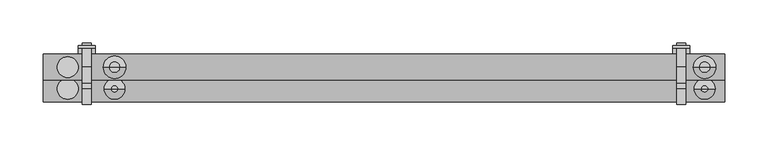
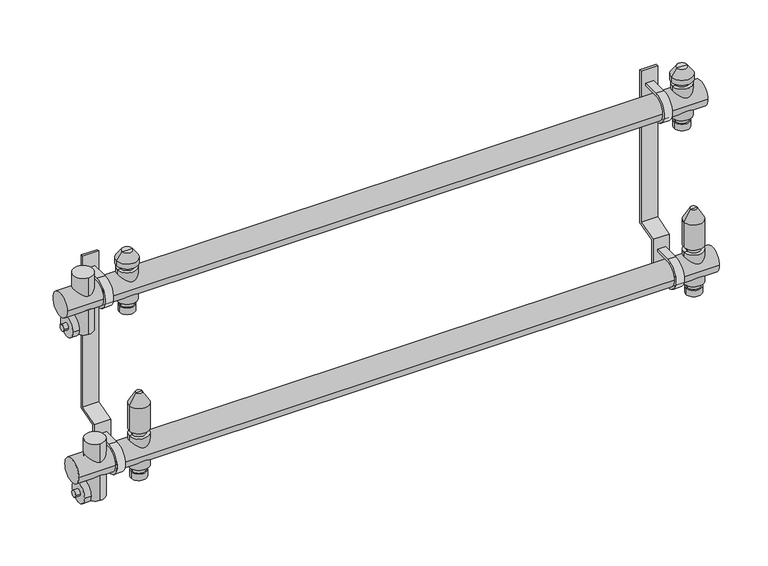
"""IFC4 building model written with IfcOpenShell, lengths in millimetres: valve geometry, PL AT_Manifold_FT-EV : 14 circuits."""

from ifc_helpers import new_model, si_unit, point, frame, frame_2d, origin, origin_2d, place, context, project, spatial, polyline, circle_curve, trimmed, segment, composite_curve, outline, extrude, source, transform, mapped, element, save
from ifc_brep_helpers import plane_surface, cylinder_surface, revolved_surface, advanced_brep


def valve_ecf45875(model_context):
    return source(origin(), model_context, "Body", "SolidModel", [
        advanced_brep(
        [(712.5, 0.0, -35.11267), (731.5, 0.0, -35.11267), (722.0, 0.0, -35.11267), (712.5, 0.0, -27.0369646), (731.5, 0.0, -27.0369646), (714.0, 0.0, -27.0369646), (730.0, 0.0, -27.0369646), (714.0, 0.0, -20.330253), (730.0, 0.0, -20.330253), (710.0, 0.0, -20.330253), (734.0, 0.0, -20.330253), (710.0, 0.0, 20.330253), (734.0, 0.0, 20.330253), (714.0, 0.0, 20.330253), (730.0, 0.0, 20.330253), (714.0, 0.0, 27.0474786), (730.0, 0.0, 27.0474786), (710.0, 0.0, 27.0474786), (734.0, 0.0, 27.0474786), (710.0, 0.0, 59.4084325), (734.0, 0.0, 59.4084325), (718.0, 0.0, 73.264839), (726.0, 0.0, 73.264839), (722.0, 0.0, 73.264839)],
        [
            (0, 1, circle_curve(frame((722.0, 0.0, -35.11267), z_axis=(0.0, 0.0, -1.0), x_axis=(1.0, 0.0, 0.0)), 9.5)),
            (1, 2),
            (2, 0),
            (1, 0, circle_curve(frame((722.0, 0.0, -35.11267), z_axis=(0.0, 0.0, -1.0), x_axis=(1.0, 0.0, 0.0)), 9.5)),
            (3, 4, circle_curve(frame((722.0, 0.0, -27.0369646), z_axis=(0.0, 0.0, -1.0), x_axis=(1.0, 0.0, 0.0)), 9.5)),
            (4, 1),
            (0, 3),
            (4, 3, circle_curve(frame((722.0, 0.0, -27.0369646), z_axis=(0.0, 0.0, -1.0), x_axis=(1.0, 0.0, 0.0)), 9.5)),
            (5, 6, circle_curve(frame((722.0, 0.0, -27.0369646), z_axis=(0.0, 0.0, -1.0), x_axis=(1.0, 0.0, 0.0)), 8.0)),
            (6, 4),
            (3, 5),
            (6, 5, circle_curve(frame((722.0, 0.0, -27.0369646), z_axis=(0.0, 0.0, -1.0), x_axis=(1.0, 0.0, 0.0)), 8.0)),
            (7, 8, circle_curve(frame((722.0, 0.0, -20.330253), z_axis=(0.0, 0.0, -1.0), x_axis=(1.0, 0.0, 0.0)), 8.0)),
            (8, 6),
            (5, 7),
            (8, 7, circle_curve(frame((722.0, 0.0, -20.330253), z_axis=(0.0, 0.0, -1.0), x_axis=(1.0, 0.0, 0.0)), 8.0)),
            (9, 10, circle_curve(frame((722.0, 0.0, -20.330253), z_axis=(0.0, 0.0, -1.0), x_axis=(1.0, 0.0, 0.0)), 12.0)),
            (10, 8),
            (7, 9),
            (10, 9, circle_curve(frame((722.0, 0.0, -20.330253), z_axis=(0.0, 0.0, -1.0), x_axis=(1.0, 0.0, 0.0)), 12.0)),
            (11, 12, circle_curve(frame((722.0, 0.0, 20.330253), z_axis=(0.0, 0.0, -1.0), x_axis=(1.0, 0.0, 0.0)), 12.0)),
            (12, 10),
            (9, 11),
            (12, 11, circle_curve(frame((722.0, 0.0, 20.330253), z_axis=(0.0, 0.0, -1.0), x_axis=(1.0, 0.0, 0.0)), 12.0)),
            (13, 14, circle_curve(frame((722.0, 0.0, 20.330253), z_axis=(0.0, 0.0, -1.0), x_axis=(1.0, 0.0, 0.0)), 8.0)),
            (14, 12),
            (11, 13),
            (14, 13, circle_curve(frame((722.0, 0.0, 20.330253), z_axis=(0.0, 0.0, -1.0), x_axis=(1.0, 0.0, 0.0)), 8.0)),
            (15, 16, circle_curve(frame((722.0, 0.0, 27.0474786), z_axis=(0.0, 0.0, -1.0), x_axis=(1.0, 0.0, 0.0)), 8.0)),
            (16, 14),
            (13, 15),
            (16, 15, circle_curve(frame((722.0, 0.0, 27.0474786), z_axis=(0.0, 0.0, -1.0), x_axis=(1.0, 0.0, 0.0)), 8.0)),
            (17, 18, circle_curve(frame((722.0, 0.0, 27.0474786), z_axis=(0.0, 0.0, -1.0), x_axis=(1.0, 0.0, 0.0)), 12.0)),
            (18, 16),
            (15, 17),
            (18, 17, circle_curve(frame((722.0, 0.0, 27.0474786), z_axis=(0.0, 0.0, -1.0), x_axis=(1.0, 0.0, 0.0)), 12.0)),
            (19, 20, circle_curve(frame((722.0, 0.0, 59.4084325), z_axis=(0.0, 0.0, -1.0), x_axis=(1.0, 0.0, 0.0)), 12.0)),
            (20, 18),
            (17, 19),
            (20, 19, circle_curve(frame((722.0, 0.0, 59.4084325), z_axis=(0.0, 0.0, -1.0), x_axis=(1.0, 0.0, 0.0)), 12.0)),
            (21, 22, circle_curve(frame((722.0, 0.0, 73.264839), z_axis=(0.0, 0.0, -1.0), x_axis=(1.0, 0.0, 0.0)), 4.0)),
            (22, 20),
            (19, 21),
            (22, 21, circle_curve(frame((722.0, 0.0, 73.264839), z_axis=(0.0, 0.0, -1.0), x_axis=(1.0, 0.0, 0.0)), 4.0)),
            (23, 22),
            (21, 23),
        ],
        [
            plane_surface(frame((722.0, 0.0, -35.11267), z_axis=(0.0, 0.0, -1.0), x_axis=(1.0, 0.0, 0.0))),
            cylinder_surface(frame((722.0, 0.0, 58.264839), z_axis=(0.0, 0.0, 1.0), x_axis=(1.0, 0.0, 0.0)), 9.5),
            plane_surface(frame((722.0, 0.0, -27.0369646), z_axis=(0.0, 0.0, 1.0), x_axis=(1.0, 0.0, 0.0))),
            cylinder_surface(frame((722.0, 0.0, 58.264839), z_axis=(0.0, 0.0, 1.0), x_axis=(1.0, 0.0, 0.0)), 8.0),
            plane_surface(frame((722.0, 0.0, -20.330253), z_axis=(0.0, 0.0, -1.0), x_axis=(1.0, 0.0, 0.0))),
            cylinder_surface(frame((722.0, 0.0, 58.264839), z_axis=(0.0, 0.0, 1.0), x_axis=(1.0, 0.0, 0.0)), 12.0),
            plane_surface(frame((722.0, 0.0, 20.330253), z_axis=(0.0, 0.0, 1.0), x_axis=(1.0, 0.0, 0.0))),
            plane_surface(frame((722.0, 0.0, 27.0474786), z_axis=(0.0, 0.0, -1.0), x_axis=(1.0, 0.0, 0.0))),
            revolved_surface(polyline([(734.0, 0.0, 59.4084325), (726.0, 0.0, 73.264839)]), (722.0, 0.0, 58.264839), (0.0, 0.0, 1.0)),
            plane_surface(frame((722.0, 0.0, 73.264839), z_axis=(0.0, 0.0, 1.0), x_axis=(1.0, 0.0, 0.0))),
        ],
        [
            (0, [[1, 2, 3]]),
            (0, [[4, -3, -2]]),
            (1, [[5, 6, -1, 7]]),
            (1, [[8, -7, -4, -6]]),
            (2, [[9, 10, -5, 11]]),
            (2, [[12, -11, -8, -10]]),
            (3, [[13, 14, -9, 15]]),
            (3, [[16, -15, -12, -14]]),
            (4, [[17, 18, -13, 19]]),
            (4, [[20, -19, -16, -18]]),
            (5, [[21, 22, -17, 23]]),
            (5, [[24, -23, -20, -22]]),
            (6, [[25, 26, -21, 27]]),
            (6, [[28, -27, -24, -26]]),
            (3, [[29, 30, -25, 31]]),
            (3, [[32, -31, -28, -30]]),
            (7, [[33, 34, -29, 35]]),
            (7, [[36, -35, -32, -34]]),
            (5, [[37, 38, -33, 39]]),
            (5, [[40, -39, -36, -38]]),
            (8, [[41, 42, -37, 43]]),
            (8, [[44, -43, -40, -42]]),
            (9, [[45, -41, 46]]),
            (9, [[-46, -44, -45]]),
        ],
    ),
        advanced_brep(
        [(712.5, 25.0, 164.88733), (731.5, 25.0, 164.88733), (722.0, 25.0, 164.88733), (712.5, 25.0, 172.9630354), (731.5, 25.0, 172.9630354), (714.0, 25.0, 172.9630354), (730.0, 25.0, 172.9630354), (714.0, 25.0, 179.669747), (730.0, 25.0, 179.669747), (710.0, 25.0, 179.669747), (734.0, 25.0, 179.669747), (710.0, 25.0, 220.330253), (734.0, 25.0, 220.330253), (714.0, 25.0, 220.330253), (730.0, 25.0, 220.330253), (714.0, 25.0, 226.0474786), (730.0, 25.0, 226.0474786), (709.0, 25.0, 226.0474786), (735.0, 25.0, 226.0474786), (709.0, 25.0, 232.337955), (735.0, 25.0, 232.337955), (715.6551779, 25.0, 241.842534), (728.3448221, 25.0, 241.842534), (722.0, 25.0, 241.842534)],
        [
            (0, 1, circle_curve(frame((722.0, 25.0, 164.88733), z_axis=(0.0, 0.0, -1.0), x_axis=(1.0, 0.0, 0.0)), 9.5)),
            (1, 2),
            (2, 0),
            (1, 0, circle_curve(frame((722.0, 25.0, 164.88733), z_axis=(0.0, 0.0, -1.0), x_axis=(1.0, 0.0, 0.0)), 9.5)),
            (3, 4, circle_curve(frame((722.0, 25.0, 172.9630354), z_axis=(0.0, 0.0, -1.0), x_axis=(1.0, 0.0, 0.0)), 9.5)),
            (4, 1),
            (0, 3),
            (4, 3, circle_curve(frame((722.0, 25.0, 172.9630354), z_axis=(0.0, 0.0, -1.0), x_axis=(1.0, 0.0, 0.0)), 9.5)),
            (5, 6, circle_curve(frame((722.0, 25.0, 172.9630354), z_axis=(0.0, 0.0, -1.0), x_axis=(1.0, 0.0, 0.0)), 8.0)),
            (6, 4),
            (3, 5),
            (6, 5, circle_curve(frame((722.0, 25.0, 172.9630354), z_axis=(0.0, 0.0, -1.0), x_axis=(1.0, 0.0, 0.0)), 8.0)),
            (7, 8, circle_curve(frame((722.0, 25.0, 179.669747), z_axis=(0.0, 0.0, -1.0), x_axis=(1.0, 0.0, 0.0)), 8.0)),
            (8, 6),
            (5, 7),
            (8, 7, circle_curve(frame((722.0, 25.0, 179.669747), z_axis=(0.0, 0.0, -1.0), x_axis=(1.0, 0.0, 0.0)), 8.0)),
            (9, 10, circle_curve(frame((722.0, 25.0, 179.669747), z_axis=(0.0, 0.0, -1.0), x_axis=(1.0, 0.0, 0.0)), 12.0)),
            (10, 8),
            (7, 9),
            (10, 9, circle_curve(frame((722.0, 25.0, 179.669747), z_axis=(0.0, 0.0, -1.0), x_axis=(1.0, 0.0, 0.0)), 12.0)),
            (11, 12, circle_curve(frame((722.0, 25.0, 220.330253), z_axis=(0.0, 0.0, -1.0), x_axis=(1.0, 0.0, 0.0)), 12.0)),
            (12, 10),
            (9, 11),
            (12, 11, circle_curve(frame((722.0, 25.0, 220.330253), z_axis=(0.0, 0.0, -1.0), x_axis=(1.0, 0.0, 0.0)), 12.0)),
            (13, 14, circle_curve(frame((722.0, 25.0, 220.330253), z_axis=(0.0, 0.0, -1.0), x_axis=(1.0, 0.0, 0.0)), 8.0)),
            (14, 12),
            (11, 13),
            (14, 13, circle_curve(frame((722.0, 25.0, 220.330253), z_axis=(0.0, 0.0, -1.0), x_axis=(1.0, 0.0, 0.0)), 8.0)),
            (15, 16, circle_curve(frame((722.0, 25.0, 226.0474786), z_axis=(0.0, 0.0, -1.0), x_axis=(1.0, 0.0, 0.0)), 8.0)),
            (16, 14),
            (13, 15),
            (16, 15, circle_curve(frame((722.0, 25.0, 226.0474786), z_axis=(0.0, 0.0, -1.0), x_axis=(1.0, 0.0, 0.0)), 8.0)),
            (17, 18, circle_curve(frame((722.0, 25.0, 226.0474786), z_axis=(0.0, 0.0, -1.0), x_axis=(1.0, 0.0, 0.0)), 13.0)),
            (18, 16),
            (15, 17),
            (18, 17, circle_curve(frame((722.0, 25.0, 226.0474786), z_axis=(0.0, 0.0, -1.0), x_axis=(1.0, 0.0, 0.0)), 13.0)),
            (19, 20, circle_curve(frame((722.0, 25.0, 232.337955), z_axis=(0.0, 0.0, -1.0), x_axis=(1.0, 0.0, 0.0)), 13.0)),
            (20, 18),
            (17, 19),
            (20, 19, circle_curve(frame((722.0, 25.0, 232.337955), z_axis=(0.0, 0.0, -1.0), x_axis=(1.0, 0.0, 0.0)), 13.0)),
            (21, 22, circle_curve(frame((722.0, 25.0, 241.842534), z_axis=(0.0, 0.0, -1.0), x_axis=(1.0, 0.0, 0.0)), 6.3448221)),
            (22, 20),
            (19, 21),
            (22, 21, circle_curve(frame((722.0, 25.0, 241.842534), z_axis=(0.0, 0.0, -1.0), x_axis=(1.0, 0.0, 0.0)), 6.3448221)),
            (23, 22),
            (21, 23),
        ],
        [
            plane_surface(frame((722.0, 25.0, 164.88733), z_axis=(0.0, 0.0, -1.0), x_axis=(1.0, 0.0, 0.0))),
            cylinder_surface(frame((722.0, 25.0, 237.7026565), z_axis=(0.0, 0.0, 1.0), x_axis=(1.0, 0.0, 0.0)), 9.5),
            plane_surface(frame((722.0, 25.0, 172.9630354), z_axis=(0.0, 0.0, 1.0), x_axis=(1.0, 0.0, 0.0))),
            cylinder_surface(frame((722.0, 25.0, 237.7026565), z_axis=(0.0, 0.0, 1.0), x_axis=(1.0, 0.0, 0.0)), 8.0),
            plane_surface(frame((722.0, 25.0, 179.669747), z_axis=(0.0, 0.0, -1.0), x_axis=(1.0, 0.0, 0.0))),
            cylinder_surface(frame((722.0, 25.0, 237.7026565), z_axis=(0.0, 0.0, 1.0), x_axis=(1.0, 0.0, 0.0)), 12.0),
            plane_surface(frame((722.0, 25.0, 220.330253), z_axis=(0.0, 0.0, 1.0), x_axis=(1.0, 0.0, 0.0))),
            plane_surface(frame((722.0, 25.0, 226.0474786), z_axis=(0.0, 0.0, -1.0), x_axis=(1.0, 0.0, 0.0))),
            cylinder_surface(frame((722.0, 25.0, 237.7026565), z_axis=(0.0, 0.0, 1.0), x_axis=(1.0, 0.0, 0.0)), 13.0),
            revolved_surface(polyline([(735.0, 25.0, 232.337955), (728.3448221, 25.0, 241.842534)]), (722.0, 25.0, 237.7026565), (0.0, 0.0, 1.0)),
            plane_surface(frame((722.0, 25.0, 241.842534), z_axis=(0.0, 0.0, 1.0), x_axis=(1.0, 0.0, 0.0))),
        ],
        [
            (0, [[1, 2, 3]]),
            (0, [[4, -3, -2]]),
            (1, [[5, 6, -1, 7]]),
            (1, [[8, -7, -4, -6]]),
            (2, [[9, 10, -5, 11]]),
            (2, [[12, -11, -8, -10]]),
            (3, [[13, 14, -9, 15]]),
            (3, [[16, -15, -12, -14]]),
            (4, [[17, 18, -13, 19]]),
            (4, [[20, -19, -16, -18]]),
            (5, [[21, 22, -17, 23]]),
            (5, [[24, -23, -20, -22]]),
            (6, [[25, 26, -21, 27]]),
            (6, [[28, -27, -24, -26]]),
            (3, [[29, 30, -25, 31]]),
            (3, [[32, -31, -28, -30]]),
            (7, [[33, 34, -29, 35]]),
            (7, [[36, -35, -32, -34]]),
            (8, [[37, 38, -33, 39]]),
            (8, [[40, -39, -36, -38]]),
            (9, [[41, 42, -37, 43]]),
            (9, [[44, -43, -40, -42]]),
            (10, [[45, -41, 46]]),
            (10, [[-46, -44, -45]]),
        ],
    ),
        advanced_brep(
        [(32.5, 25.0, 164.88733), (51.5, 25.0, 164.88733), (42.0, 25.0, 164.88733), (32.5, 25.0, 172.9630354), (51.5, 25.0, 172.9630354), (34.0, 25.0, 172.9630354), (50.0, 25.0, 172.9630354), (34.0, 25.0, 179.669747), (50.0, 25.0, 179.669747), (30.0, 25.0, 179.669747), (54.0, 25.0, 179.669747), (30.0, 25.0, 220.330253), (54.0, 25.0, 220.330253), (34.0, 25.0, 220.330253), (50.0, 25.0, 220.330253), (34.0, 25.0, 226.0474786), (50.0, 25.0, 226.0474786), (29.0, 25.0, 226.0474786), (55.0, 25.0, 226.0474786), (29.0, 25.0, 232.337955), (55.0, 25.0, 232.337955), (35.6551779, 25.0, 241.842534), (48.3448221, 25.0, 241.842534), (42.0, 25.0, 241.842534)],
        [
            (0, 1, circle_curve(frame((42.0, 25.0, 164.88733), z_axis=(0.0, 0.0, -1.0), x_axis=(1.0, 0.0, 0.0)), 9.5)),
            (1, 2),
            (2, 0),
            (1, 0, circle_curve(frame((42.0, 25.0, 164.88733), z_axis=(0.0, 0.0, -1.0), x_axis=(1.0, 0.0, 0.0)), 9.5)),
            (3, 4, circle_curve(frame((42.0, 25.0, 172.9630354), z_axis=(0.0, 0.0, -1.0), x_axis=(1.0, 0.0, 0.0)), 9.5)),
            (4, 1),
            (0, 3),
            (4, 3, circle_curve(frame((42.0, 25.0, 172.9630354), z_axis=(0.0, 0.0, -1.0), x_axis=(1.0, 0.0, 0.0)), 9.5)),
            (5, 6, circle_curve(frame((42.0, 25.0, 172.9630354), z_axis=(0.0, 0.0, -1.0), x_axis=(1.0, 0.0, 0.0)), 8.0)),
            (6, 4),
            (3, 5),
            (6, 5, circle_curve(frame((42.0, 25.0, 172.9630354), z_axis=(0.0, 0.0, -1.0), x_axis=(1.0, 0.0, 0.0)), 8.0)),
            (7, 8, circle_curve(frame((42.0, 25.0, 179.669747), z_axis=(0.0, 0.0, -1.0), x_axis=(1.0, 0.0, 0.0)), 8.0)),
            (8, 6),
            (5, 7),
            (8, 7, circle_curve(frame((42.0, 25.0, 179.669747), z_axis=(0.0, 0.0, -1.0), x_axis=(1.0, 0.0, 0.0)), 8.0)),
            (9, 10, circle_curve(frame((42.0, 25.0, 179.669747), z_axis=(0.0, 0.0, -1.0), x_axis=(1.0, 0.0, 0.0)), 12.0)),
            (10, 8),
            (7, 9),
            (10, 9, circle_curve(frame((42.0, 25.0, 179.669747), z_axis=(0.0, 0.0, -1.0), x_axis=(1.0, 0.0, 0.0)), 12.0)),
            (11, 12, circle_curve(frame((42.0, 25.0, 220.330253), z_axis=(0.0, 0.0, -1.0), x_axis=(1.0, 0.0, 0.0)), 12.0)),
            (12, 10),
            (9, 11),
            (12, 11, circle_curve(frame((42.0, 25.0, 220.330253), z_axis=(0.0, 0.0, -1.0), x_axis=(1.0, 0.0, 0.0)), 12.0)),
            (13, 14, circle_curve(frame((42.0, 25.0, 220.330253), z_axis=(0.0, 0.0, -1.0), x_axis=(1.0, 0.0, 0.0)), 8.0)),
            (14, 12),
            (11, 13),
            (14, 13, circle_curve(frame((42.0, 25.0, 220.330253), z_axis=(0.0, 0.0, -1.0), x_axis=(1.0, 0.0, 0.0)), 8.0)),
            (15, 16, circle_curve(frame((42.0, 25.0, 226.0474786), z_axis=(0.0, 0.0, -1.0), x_axis=(1.0, 0.0, 0.0)), 8.0)),
            (16, 14),
            (13, 15),
            (16, 15, circle_curve(frame((42.0, 25.0, 226.0474786), z_axis=(0.0, 0.0, -1.0), x_axis=(1.0, 0.0, 0.0)), 8.0)),
            (17, 18, circle_curve(frame((42.0, 25.0, 226.0474786), z_axis=(0.0, 0.0, -1.0), x_axis=(1.0, 0.0, 0.0)), 13.0)),
            (18, 16),
            (15, 17),
            (18, 17, circle_curve(frame((42.0, 25.0, 226.0474786), z_axis=(0.0, 0.0, -1.0), x_axis=(1.0, 0.0, 0.0)), 13.0)),
            (19, 20, circle_curve(frame((42.0, 25.0, 232.337955), z_axis=(0.0, 0.0, -1.0), x_axis=(1.0, 0.0, 0.0)), 13.0)),
            (20, 18),
            (17, 19),
            (20, 19, circle_curve(frame((42.0, 25.0, 232.337955), z_axis=(0.0, 0.0, -1.0), x_axis=(1.0, 0.0, 0.0)), 13.0)),
            (21, 22, circle_curve(frame((42.0, 25.0, 241.842534), z_axis=(0.0, 0.0, -1.0), x_axis=(1.0, 0.0, 0.0)), 6.3448221)),
            (22, 20),
            (19, 21),
            (22, 21, circle_curve(frame((42.0, 25.0, 241.842534), z_axis=(0.0, 0.0, -1.0), x_axis=(1.0, 0.0, 0.0)), 6.3448221)),
            (23, 22),
            (21, 23),
        ],
        [
            plane_surface(frame((42.0, 25.0, 164.88733), z_axis=(0.0, 0.0, -1.0), x_axis=(1.0, 0.0, 0.0))),
            cylinder_surface(frame((42.0, 25.0, 237.7026565), z_axis=(0.0, 0.0, 1.0), x_axis=(1.0, 0.0, 0.0)), 9.5),
            plane_surface(frame((42.0, 25.0, 172.9630354), z_axis=(0.0, 0.0, 1.0), x_axis=(1.0, 0.0, 0.0))),
            cylinder_surface(frame((42.0, 25.0, 237.7026565), z_axis=(0.0, 0.0, 1.0), x_axis=(1.0, 0.0, 0.0)), 8.0),
            plane_surface(frame((42.0, 25.0, 179.669747), z_axis=(0.0, 0.0, -1.0), x_axis=(1.0, 0.0, 0.0))),
            cylinder_surface(frame((42.0, 25.0, 237.7026565), z_axis=(0.0, 0.0, 1.0), x_axis=(1.0, 0.0, 0.0)), 12.0),
            plane_surface(frame((42.0, 25.0, 220.330253), z_axis=(0.0, 0.0, 1.0), x_axis=(1.0, 0.0, 0.0))),
            plane_surface(frame((42.0, 25.0, 226.0474786), z_axis=(0.0, 0.0, -1.0), x_axis=(1.0, 0.0, 0.0))),
            cylinder_surface(frame((42.0, 25.0, 237.7026565), z_axis=(0.0, 0.0, 1.0), x_axis=(1.0, 0.0, 0.0)), 13.0),
            revolved_surface(polyline([(55.0, 25.0, 232.337955), (48.3448221, 25.0, 241.842534)]), (42.0, 25.0, 237.7026565), (0.0, 0.0, 1.0)),
            plane_surface(frame((42.0, 25.0, 241.842534), z_axis=(0.0, 0.0, 1.0), x_axis=(1.0, 0.0, 0.0))),
        ],
        [
            (0, [[1, 2, 3]]),
            (0, [[4, -3, -2]]),
            (1, [[5, 6, -1, 7]]),
            (1, [[8, -7, -4, -6]]),
            (2, [[9, 10, -5, 11]]),
            (2, [[12, -11, -8, -10]]),
            (3, [[13, 14, -9, 15]]),
            (3, [[16, -15, -12, -14]]),
            (4, [[17, 18, -13, 19]]),
            (4, [[20, -19, -16, -18]]),
            (5, [[21, 22, -17, 23]]),
            (5, [[24, -23, -20, -22]]),
            (6, [[25, 26, -21, 27]]),
            (6, [[28, -27, -24, -26]]),
            (3, [[29, 30, -25, 31]]),
            (3, [[32, -31, -28, -30]]),
            (7, [[33, 34, -29, 35]]),
            (7, [[36, -35, -32, -34]]),
            (8, [[37, 38, -33, 39]]),
            (8, [[40, -39, -36, -38]]),
            (9, [[41, 42, -37, 43]]),
            (9, [[44, -43, -40, -42]]),
            (10, [[45, -41, 46]]),
            (10, [[-46, -44, -45]]),
        ],
    ),
        advanced_brep(
        [(32.5, 0.0, -35.11267), (51.5, 0.0, -35.11267), (42.0, 0.0, -35.11267), (32.5, 0.0, -27.0369646), (51.5, 0.0, -27.0369646), (34.0, 0.0, -27.0369646), (50.0, 0.0, -27.0369646), (34.0, 0.0, -20.330253), (50.0, 0.0, -20.330253), (30.0, 0.0, -20.330253), (54.0, 0.0, -20.330253), (30.0, 0.0, 20.330253), (54.0, 0.0, 20.330253), (34.0, 0.0, 20.330253), (50.0, 0.0, 20.330253), (34.0, 0.0, 27.0474786), (50.0, 0.0, 27.0474786), (30.0, 0.0, 27.0474786), (54.0, 0.0, 27.0474786), (30.0, 0.0, 59.4084325), (54.0, 0.0, 59.4084325), (38.0, 0.0, 73.264839), (46.0, 0.0, 73.264839), (42.0, 0.0, 73.264839)],
        [
            (0, 1, circle_curve(frame((42.0, 0.0, -35.11267), z_axis=(0.0, 0.0, -1.0), x_axis=(1.0, 0.0, 0.0)), 9.5)),
            (1, 2),
            (2, 0),
            (1, 0, circle_curve(frame((42.0, 0.0, -35.11267), z_axis=(0.0, 0.0, -1.0), x_axis=(1.0, 0.0, 0.0)), 9.5)),
            (3, 4, circle_curve(frame((42.0, 0.0, -27.0369646), z_axis=(0.0, 0.0, -1.0), x_axis=(1.0, 0.0, 0.0)), 9.5)),
            (4, 1),
            (0, 3),
            (4, 3, circle_curve(frame((42.0, 0.0, -27.0369646), z_axis=(0.0, 0.0, -1.0), x_axis=(1.0, 0.0, 0.0)), 9.5)),
            (5, 6, circle_curve(frame((42.0, 0.0, -27.0369646), z_axis=(0.0, 0.0, -1.0), x_axis=(1.0, 0.0, 0.0)), 8.0)),
            (6, 4),
            (3, 5),
            (6, 5, circle_curve(frame((42.0, 0.0, -27.0369646), z_axis=(0.0, 0.0, -1.0), x_axis=(1.0, 0.0, 0.0)), 8.0)),
            (7, 8, circle_curve(frame((42.0, 0.0, -20.330253), z_axis=(0.0, 0.0, -1.0), x_axis=(1.0, 0.0, 0.0)), 8.0)),
            (8, 6),
            (5, 7),
            (8, 7, circle_curve(frame((42.0, 0.0, -20.330253), z_axis=(0.0, 0.0, -1.0), x_axis=(1.0, 0.0, 0.0)), 8.0)),
            (9, 10, circle_curve(frame((42.0, 0.0, -20.330253), z_axis=(0.0, 0.0, -1.0), x_axis=(1.0, 0.0, 0.0)), 12.0)),
            (10, 8),
            (7, 9),
            (10, 9, circle_curve(frame((42.0, 0.0, -20.330253), z_axis=(0.0, 0.0, -1.0), x_axis=(1.0, 0.0, 0.0)), 12.0)),
            (11, 12, circle_curve(frame((42.0, 0.0, 20.330253), z_axis=(0.0, 0.0, -1.0), x_axis=(1.0, 0.0, 0.0)), 12.0)),
            (12, 10),
            (9, 11),
            (12, 11, circle_curve(frame((42.0, 0.0, 20.330253), z_axis=(0.0, 0.0, -1.0), x_axis=(1.0, 0.0, 0.0)), 12.0)),
            (13, 14, circle_curve(frame((42.0, 0.0, 20.330253), z_axis=(0.0, 0.0, -1.0), x_axis=(1.0, 0.0, 0.0)), 8.0)),
            (14, 12),
            (11, 13),
            (14, 13, circle_curve(frame((42.0, 0.0, 20.330253), z_axis=(0.0, 0.0, -1.0), x_axis=(1.0, 0.0, 0.0)), 8.0)),
            (15, 16, circle_curve(frame((42.0, 0.0, 27.0474786), z_axis=(0.0, 0.0, -1.0), x_axis=(1.0, 0.0, 0.0)), 8.0)),
            (16, 14),
            (13, 15),
            (16, 15, circle_curve(frame((42.0, 0.0, 27.0474786), z_axis=(0.0, 0.0, -1.0), x_axis=(1.0, 0.0, 0.0)), 8.0)),
            (17, 18, circle_curve(frame((42.0, 0.0, 27.0474786), z_axis=(0.0, 0.0, -1.0), x_axis=(1.0, 0.0, 0.0)), 12.0)),
            (18, 16),
            (15, 17),
            (18, 17, circle_curve(frame((42.0, 0.0, 27.0474786), z_axis=(0.0, 0.0, -1.0), x_axis=(1.0, 0.0, 0.0)), 12.0)),
            (19, 20, circle_curve(frame((42.0, 0.0, 59.4084325), z_axis=(0.0, 0.0, -1.0), x_axis=(1.0, 0.0, 0.0)), 12.0)),
            (20, 18),
            (17, 19),
            (20, 19, circle_curve(frame((42.0, 0.0, 59.4084325), z_axis=(0.0, 0.0, -1.0), x_axis=(1.0, 0.0, 0.0)), 12.0)),
            (21, 22, circle_curve(frame((42.0, 0.0, 73.264839), z_axis=(0.0, 0.0, -1.0), x_axis=(1.0, 0.0, 0.0)), 4.0)),
            (22, 20),
            (19, 21),
            (22, 21, circle_curve(frame((42.0, 0.0, 73.264839), z_axis=(0.0, 0.0, -1.0), x_axis=(1.0, 0.0, 0.0)), 4.0)),
            (23, 22),
            (21, 23),
        ],
        [
            plane_surface(frame((42.0, 0.0, -35.11267), z_axis=(0.0, 0.0, -1.0), x_axis=(1.0, 0.0, 0.0))),
            cylinder_surface(frame((42.0, 0.0, 58.264839), z_axis=(0.0, 0.0, 1.0), x_axis=(1.0, 0.0, 0.0)), 9.5),
            plane_surface(frame((42.0, 0.0, -27.0369646), z_axis=(0.0, 0.0, 1.0), x_axis=(1.0, 0.0, 0.0))),
            cylinder_surface(frame((42.0, 0.0, 58.264839), z_axis=(0.0, 0.0, 1.0), x_axis=(1.0, 0.0, 0.0)), 8.0),
            plane_surface(frame((42.0, 0.0, -20.330253), z_axis=(0.0, 0.0, -1.0), x_axis=(1.0, 0.0, 0.0))),
            cylinder_surface(frame((42.0, 0.0, 58.264839), z_axis=(0.0, 0.0, 1.0), x_axis=(1.0, 0.0, 0.0)), 12.0),
            plane_surface(frame((42.0, 0.0, 20.330253), z_axis=(0.0, 0.0, 1.0), x_axis=(1.0, 0.0, 0.0))),
            plane_surface(frame((42.0, 0.0, 27.0474786), z_axis=(0.0, 0.0, -1.0), x_axis=(1.0, 0.0, 0.0))),
            revolved_surface(polyline([(54.0, 0.0, 59.4084325), (46.0, 0.0, 73.264839)]), (42.0, 0.0, 58.264839), (0.0, 0.0, 1.0)),
            plane_surface(frame((42.0, 0.0, 73.264839), z_axis=(0.0, 0.0, 1.0), x_axis=(1.0, 0.0, 0.0))),
        ],
        [
            (0, [[1, 2, 3]]),
            (0, [[4, -3, -2]]),
            (1, [[5, 6, -1, 7]]),
            (1, [[8, -7, -4, -6]]),
            (2, [[9, 10, -5, 11]]),
            (2, [[12, -11, -8, -10]]),
            (3, [[13, 14, -9, 15]]),
            (3, [[16, -15, -12, -14]]),
            (4, [[17, 18, -13, 19]]),
            (4, [[20, -19, -16, -18]]),
            (5, [[21, 22, -17, 23]]),
            (5, [[24, -23, -20, -22]]),
            (6, [[25, 26, -21, 27]]),
            (6, [[28, -27, -24, -26]]),
            (3, [[29, 30, -25, 31]]),
            (3, [[32, -31, -28, -30]]),
            (7, [[33, 34, -29, 35]]),
            (7, [[36, -35, -32, -34]]),
            (5, [[37, 38, -33, 39]]),
            (5, [[40, -39, -36, -38]]),
            (8, [[41, 42, -37, 43]]),
            (8, [[44, -43, -40, -42]]),
            (9, [[45, -41, 46]]),
            (9, [[-46, -44, -45]]),
        ],
    ),
        extrude(outline(composite_curve([segment(trimmed(circle_curve(frame_2d((25.0, 169.0476755)), 4.0), [point((29.0, 169.0476755))], [point((21.0, 169.0476755))], False, "CARTESIAN"), True, "CONTINUOUS"), segment(trimmed(circle_curve(frame_2d((25.0, 169.0476755)), 4.0), [point((21.0, 169.0476755))], [point((29.0, 169.0476755))], False, "CARTESIAN"), True, "CONTINUOUS")], self_intersect=False)), frame((-37.7602444, 0.0, 0.0), z_axis=(1.0, 0.0, 0.0), x_axis=(0.0, 1.0, 0.0)), (0.0, 0.0, 1.0), 5.7448033),
        extrude(outline(composite_curve([segment(trimmed(circle_curve(frame_2d((25.0, 169.0476755)), 13.0), [point((38.0, 169.0476755))], [point((12.0, 169.0476755))], False, "CARTESIAN"), True, "CONTINUOUS"), segment(trimmed(circle_curve(frame_2d((25.0, 169.0476755)), 13.0), [point((12.0, 169.0476755))], [point((38.0, 169.0476755))], False, "CARTESIAN"), True, "CONTINUOUS")], self_intersect=False)), frame((-32.0154412, 0.0, 0.0), z_axis=(1.0, 0.0, 0.0), x_axis=(0.0, 1.0, 0.0)), (0.0, 0.0, 1.0), 7.9555096),
        extrude(outline(composite_curve([segment(trimmed(circle_curve(frame_2d((-12.0, 25.0)), 12.0), [point((-12.0, 13.0))], [point((-12.0, 37.0))], False, "CARTESIAN"), True, "CONTINUOUS"), segment(trimmed(circle_curve(frame_2d((-12.0, 25.0)), 12.0), [point((-12.0, 37.0))], [point((-12.0, 13.0))], False, "CARTESIAN"), True, "CONTINUOUS")], self_intersect=False)), frame((0.0, 0.0, 158.8001215), z_axis=(0.0, 0.0, 1.0), x_axis=(1.0, 0.0, 0.0)), (0.0, 0.0, 1.0), 73.4605406),
        extrude(outline(composite_curve([segment(trimmed(circle_curve(frame_2d((0.0, -30.9523245)), 4.0), [point((4.0, -30.9523245))], [point((-4.0, -30.9523245))], False, "CARTESIAN"), True, "CONTINUOUS"), segment(trimmed(circle_curve(frame_2d((0.0, -30.9523245)), 4.0), [point((-4.0, -30.9523245))], [point((4.0, -30.9523245))], False, "CARTESIAN"), True, "CONTINUOUS")], self_intersect=False)), frame((-37.7602444, 0.0, 0.0), z_axis=(1.0, 0.0, 0.0), x_axis=(0.0, 1.0, 0.0)), (0.0, 0.0, 1.0), 5.7448033),
        extrude(outline(composite_curve([segment(trimmed(circle_curve(frame_2d((0.0, -30.9523245)), 13.0), [point((13.0, -30.9523245))], [point((-13.0, -30.9523245))], False, "CARTESIAN"), True, "CONTINUOUS"), segment(trimmed(circle_curve(frame_2d((0.0, -30.9523245)), 13.0), [point((-13.0, -30.9523245))], [point((13.0, -30.9523245))], False, "CARTESIAN"), True, "CONTINUOUS")], self_intersect=False)), frame((-32.0154412, 0.0, 0.0), z_axis=(1.0, 0.0, 0.0), x_axis=(0.0, 1.0, 0.0)), (0.0, 0.0, 1.0), 7.9555096),
        extrude(outline(composite_curve([segment(trimmed(circle_curve(frame_2d((-12.0, 0.0)), 12.0), [point((-12.0, -12.0))], [point((-12.0, 12.0))], False, "CARTESIAN"), True, "CONTINUOUS"), segment(trimmed(circle_curve(frame_2d((-12.0, 0.0)), 12.0), [point((-12.0, 12.0))], [point((-12.0, -12.0))], False, "CARTESIAN"), True, "CONTINUOUS")], self_intersect=False)), frame((0.0, 0.0, -41.1998785), z_axis=(0.0, 0.0, 1.0), x_axis=(1.0, 0.0, 0.0)), (0.0, 0.0, 1.0), 73.4605406),
        extrude(outline(polyline([(50.0, 37.1686346), (25.0, 30.0), (25.0, -30.0), (50.0, -39.0992559), (50.0, -51.1572069), (47.0, -51.1572069), (47.0, -41.1998785), (22.0, -32.1006226), (22.0, 32.2606622), (47.0, 39.4292968), (47.0, 235.0), (50.0, 235.0), (50.0, 37.1686346)])), frame((685.0, 0.0, 0.0), z_axis=(1.0, 0.0, 0.0), x_axis=(0.0, 1.0, 0.0)), (0.0, 0.0, 1.0), 20.0),
        extrude(outline(polyline([(50.0, 37.1686346), (25.0, 30.0), (25.0, -30.0), (50.0, -39.0992559), (50.0, -51.1572069), (47.0, -51.1572069), (47.0, -41.1998785), (22.0, -32.1006226), (22.0, 32.2606622), (47.0, 39.4292968), (47.0, 235.0), (50.0, 235.0), (50.0, 37.1686346)])), frame((0.0, 0.0, 0.0), z_axis=(1.0, 0.0, 0.0), x_axis=(0.0, 1.0, 0.0)), (0.0, 0.0, 1.0), 20.0),
        extrude(outline(composite_curve([segment(trimmed(circle_curve(origin_2d(), 15.0), [point((0.0, 15.0))], [point((0.0, -15.0))], True, "CARTESIAN"), True, "CONTINUOUS"), segment(polyline([(0.0, -15.0), (27.6751284, -15.0), (27.6751284, -18.0), (0.0, -18.0)]), True, "CONTINUOUS"), segment(trimmed(circle_curve(origin_2d(), 18.0), [point((0.0, -18.0))], [point((0.0, 18.0))], False, "CARTESIAN"), True, "CONTINUOUS"), segment(polyline([(0.0, 18.0), (27.6751284, 18.0), (27.6751284, 15.0), (0.0, 15.0)]), True, "CONTINUOUS")], self_intersect=False)), frame((690.0, 0.0, 0.0), z_axis=(1.0, 0.0, 0.0), x_axis=(0.0, 1.0, 0.0)), (0.0, 0.0, 1.0), 10.0),
        extrude(outline(composite_curve([segment(trimmed(circle_curve(frame_2d((25.0, 200.0)), 15.0), [point((25.0, 215.0))], [point((25.0, 185.0))], True, "CARTESIAN"), True, "CONTINUOUS"), segment(polyline([(25.0, 185.0), (52.6751284, 185.0), (52.6751284, 182.0), (25.0, 182.0)]), True, "CONTINUOUS"), segment(trimmed(circle_curve(frame_2d((25.0, 200.0)), 18.0), [point((25.0, 182.0))], [point((25.0, 218.0))], False, "CARTESIAN"), True, "CONTINUOUS"), segment(polyline([(25.0, 218.0), (52.6751284, 218.0), (52.6751284, 215.0), (25.0, 215.0)]), True, "CONTINUOUS")], self_intersect=False)), frame((690.0, 0.0, 0.0), z_axis=(1.0, 0.0, 0.0), x_axis=(0.0, 1.0, 0.0)), (0.0, 0.0, 1.0), 10.0),
        extrude(outline(composite_curve([segment(trimmed(circle_curve(origin_2d(), 15.0), [point((0.0, 15.0))], [point((0.0, -15.0))], True, "CARTESIAN"), True, "CONTINUOUS"), segment(polyline([(0.0, -15.0), (27.6751284, -15.0), (27.6751284, -18.0), (0.0, -18.0)]), True, "CONTINUOUS"), segment(trimmed(circle_curve(origin_2d(), 18.0), [point((0.0, -18.0))], [point((0.0, 18.0))], False, "CARTESIAN"), True, "CONTINUOUS"), segment(polyline([(0.0, 18.0), (27.6751284, 18.0), (27.6751284, 15.0), (0.0, 15.0)]), True, "CONTINUOUS")], self_intersect=False)), frame((5.0, 0.0, 0.0), z_axis=(1.0, 0.0, 0.0), x_axis=(0.0, 1.0, 0.0)), (0.0, 0.0, 1.0), 10.0),
        extrude(outline(composite_curve([segment(trimmed(circle_curve(frame_2d((25.0, 200.0)), 15.0), [point((25.0, 215.0))], [point((25.0, 185.0))], True, "CARTESIAN"), True, "CONTINUOUS"), segment(polyline([(25.0, 185.0), (52.6751284, 185.0), (52.6751284, 182.0), (25.0, 182.0)]), True, "CONTINUOUS"), segment(trimmed(circle_curve(frame_2d((25.0, 200.0)), 18.0), [point((25.0, 182.0))], [point((25.0, 218.0))], False, "CARTESIAN"), True, "CONTINUOUS"), segment(polyline([(25.0, 218.0), (52.6751284, 218.0), (52.6751284, 215.0), (25.0, 215.0)]), True, "CONTINUOUS")], self_intersect=False)), frame((5.0, 0.0, 0.0), z_axis=(1.0, 0.0, 0.0), x_axis=(0.0, 1.0, 0.0)), (0.0, 0.0, 1.0), 10.0),
        extrude(outline(composite_curve([segment(trimmed(circle_curve(origin_2d(), 15.0), [point((15.0, 0.0))], [point((-15.0, 0.0))], False, "CARTESIAN"), True, "CONTINUOUS"), segment(trimmed(circle_curve(origin_2d(), 15.0), [point((-15.0, 0.0))], [point((15.0, 0.0))], False, "CARTESIAN"), True, "CONTINUOUS")], self_intersect=False)), frame((-40.0, 0.0, 0.0), z_axis=(1.0, 0.0, 0.0), x_axis=(0.0, 1.0, 0.0)), (0.0, 0.0, 1.0), 785.0),
        extrude(outline(composite_curve([segment(trimmed(circle_curve(frame_2d((25.0, 200.0)), 15.0), [point((40.0, 200.0))], [point((10.0, 200.0))], False, "CARTESIAN"), True, "CONTINUOUS"), segment(trimmed(circle_curve(frame_2d((25.0, 200.0)), 15.0), [point((10.0, 200.0))], [point((40.0, 200.0))], False, "CARTESIAN"), True, "CONTINUOUS")], self_intersect=False)), frame((-40.0, 0.0, 0.0), z_axis=(1.0, 0.0, 0.0), x_axis=(0.0, 1.0, 0.0)), (0.0, 0.0, 1.0), 785.0),
    ])


if __name__ == "__main__":
    model = new_model("IFC4")
    model_context = context("Model", 3, world=origin())
    ifc_project = project(units=[si_unit("LENGTHUNIT", "METRE", prefix="MILLI")], contexts=[model_context])
    site = spatial("IfcSite", under=ifc_project)
    building = spatial("IfcBuilding", under=site)
    placement = place(None, origin())
    valve_shape = valve_ecf45875(model_context)
    element("IfcValve", 1, ObjectType="PL AT_Manifold_FT-EV : 14 circuits", at=placement, inside=building, context=model_context, shape_type="MappedRepresentation", body=[
        mapped(valve_shape, transform((0.0, 0.0, 0.0), x_axis=(1.0, 0.0, 0.0), y_axis=(0.0, 1.0, 0.0), z_axis=(0.0, 0.0, 1.0))),
    ])
    save(model, "model.ifc")
